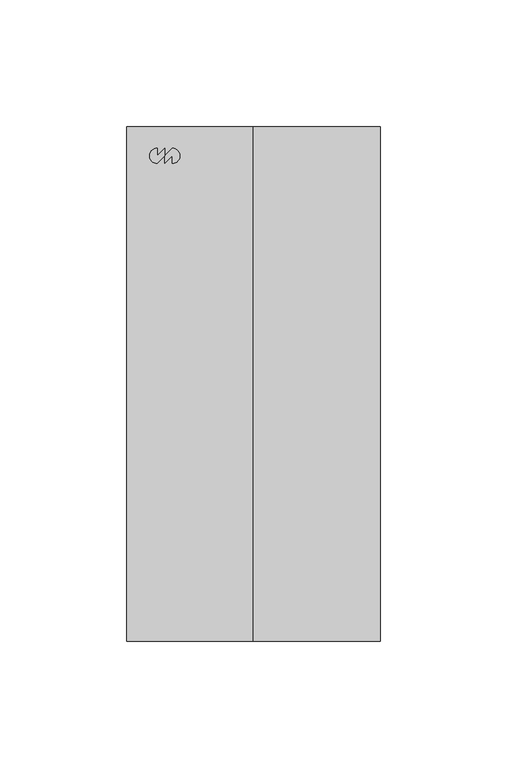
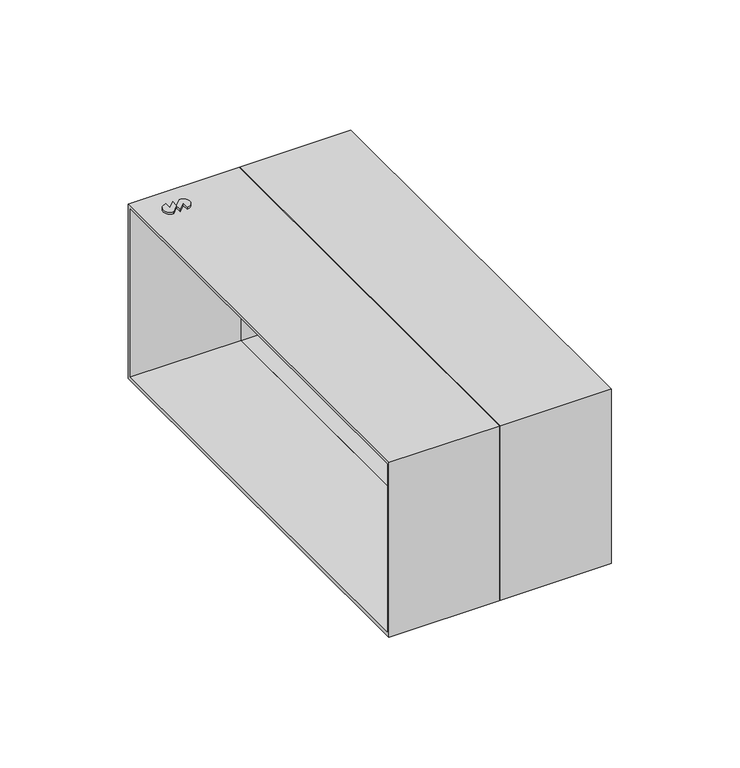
"""IFC4 building model written with IfcOpenShell, lengths in millimetres: duct fitting geometry, NLRS_57_DUF_UN_instortkanaal-manchet-voor-luchtkanaal_LT_velu : Manchet 100."""

import ifcopenshell
import ifcopenshell.guid

model = None  # the IFC model being written
_history = None  # IfcOwnerHistory: only IFC2X3 demands one
_inside = {}  # id of a spatial element -> (the spatial element, [elements in it])
_under = {}  # id of a project, library or spatial element -> (it, [spatial elements below it])
_declared = {}  # id of a project -> (the project, [libraries it declares])
_typed = {}  # id of a type object -> (the type object, [elements of that type])
_made_of = {}  # id of a material, layer set ... -> (it, [elements and type objects made of it])


def new_model(schema):
    """Start an empty IFC model of exactly this schema.

    Asked for "IFC4X3", IfcOpenShell would pick the latest addendum, in which some entities
    have other attributes; the version numbers below select the first issue.
    IFC2X3 requires an IfcOwnerHistory on every rooted entity: one is made here for all.
    """
    global model, _history
    if schema == "IFC4X3":
        model = ifcopenshell.file(schema_version=(4, 3, 0, 0))
    else:
        model = ifcopenshell.file(schema=schema)
    _inside.clear()
    _under.clear()
    _declared.clear()
    _typed.clear()
    _made_of.clear()
    _history = None
    if model.schema == "IFC2X3":
        org = make("IfcOrganization", Name="unknown")
        user = make(
            "IfcPersonAndOrganization",
            ThePerson=make("IfcPerson", FamilyName="unknown"),
            TheOrganization=org,
        )
        app = make(
            "IfcApplication",
            ApplicationDeveloper=org,
            Version="unknown",
            ApplicationFullName="unknown",
            ApplicationIdentifier="unknown",
        )
        _history = make(
            "IfcOwnerHistory",
            OwningUser=user,
            OwningApplication=app,
            ChangeAction="ADDED",
            CreationDate=0,
        )
    return model


def make(cls, **values):
    """One entity of the class cls with the attributes given. An attribute that is None is left unset."""
    return model.create_entity(
        cls, **{name: value for name, value in values.items() if value is not None}
    )


def rooted(cls, **values):
    """An entity with a GlobalId (a new one), such as an element, a storey or a relation."""
    return make(cls, GlobalId=ifcopenshell.guid.new(), OwnerHistory=_history, **values)


def si_unit(unit_type, name, prefix=None):
    """IfcSIUnit, for example si_unit("LENGTHUNIT", "METRE", prefix="MILLI")."""
    return make("IfcSIUnit", UnitType=unit_type, Prefix=prefix, Name=name)


def assignment(units):
    """IfcUnitAssignment: the units of a project."""
    return None if units is None else make("IfcUnitAssignment", Units=units)


def point(xyz):
    """IfcCartesianPoint."""
    return None if xyz is None else make("IfcCartesianPoint", Coordinates=xyz)


def direction(xyz):
    """IfcDirection."""
    return None if xyz is None else make("IfcDirection", DirectionRatios=xyz)


def frame(location, z_axis=None, x_axis=None):
    """IfcAxis2Placement3D, a coordinate frame: its origin and axes. An axis left out is left unset."""
    return make(
        "IfcAxis2Placement3D",
        Location=point(location),
        Axis=direction(z_axis),
        RefDirection=direction(x_axis),
    )


def frame_2d(location, x_axis=None):
    """IfcAxis2Placement2D, a coordinate frame in the plane: its origin and x axis."""
    return make(
        "IfcAxis2Placement2D", Location=point(location), RefDirection=direction(x_axis)
    )


def origin():
    """The frame at (0, 0, 0) with its axes left unset."""
    return frame((0.0, 0.0, 0.0))


def place(relative_to, where):
    """IfcLocalPlacement: puts the frame where relative to a parent placement (None: the world)."""
    return make(
        "IfcLocalPlacement", PlacementRelTo=relative_to, RelativePlacement=where
    )


def context(
    kind, dimensions, precision=None, world=None, true_north=None, identifier=None
):
    """IfcGeometricRepresentationContext, for example the 3D "Model" context."""
    return make(
        "IfcGeometricRepresentationContext",
        ContextIdentifier=identifier,
        ContextType=kind,
        CoordinateSpaceDimension=dimensions,
        Precision=precision,
        WorldCoordinateSystem=world,
        TrueNorth=true_north,
    )


def project(units=None, contexts=None):
    """IfcProject with its units and contexts."""
    return rooted(
        "IfcProject",
        Name="project",
        RepresentationContexts=contexts,
        UnitsInContext=assignment(units),
    )


def spatial(cls, under=None, at=None, **own):
    """A site, building, storey or space (cls), placed at a placement, below another one or the project."""
    s = rooted(cls, ObjectPlacement=at, **own)
    if under is not None:
        _under.setdefault(under.id(), (under, []))[1].append(s)
    return s


def polyline(points):
    """IfcPolyline through the points."""
    return make("IfcPolyline", Points=[point(p) for p in points])


def circle_curve(where, radius):
    """IfcCircle in the frame where."""
    return make("IfcCircle", Position=where, Radius=radius)


def trimmed(basis, trim1, trim2, sense, master):
    """IfcTrimmedCurve: the piece of a basis curve between two trims."""
    return make(
        "IfcTrimmedCurve",
        BasisCurve=basis,
        Trim1=trim1,
        Trim2=trim2,
        SenseAgreement=sense,
        MasterRepresentation=master,
    )


def segment(curve, same_sense, transition):
    """IfcCompositeCurveSegment."""
    return make(
        "IfcCompositeCurveSegment",
        Transition=transition,
        SameSense=same_sense,
        ParentCurve=curve,
    )


def composite_curve(segments, self_intersect=None):
    """IfcCompositeCurve: segments joined end to end."""
    return make("IfcCompositeCurve", Segments=segments, SelfIntersect=self_intersect)


def outline(outer, holes=None, kind="AREA"):
    """IfcArbitraryClosedProfileDef: a profile drawn as a closed curve; with holes, ...WithVoids."""
    if holes is None:
        return make("IfcArbitraryClosedProfileDef", ProfileType=kind, OuterCurve=outer)
    return make(
        "IfcArbitraryProfileDefWithVoids",
        ProfileType=kind,
        OuterCurve=outer,
        InnerCurves=holes,
    )


def extrude(swept, where, along, depth):
    """IfcExtrudedAreaSolid: the profile swept, set in the frame where, extruded along a direction by depth."""
    return make(
        "IfcExtrudedAreaSolid",
        SweptArea=swept,
        Position=where,
        ExtrudedDirection=direction(along),
        Depth=depth,
    )


def shape(context_of_items, identifier, shape_type, items):
    """IfcShapeRepresentation: the items that make up one representation, for example the "Body"."""
    return make(
        "IfcShapeRepresentation",
        ContextOfItems=context_of_items,
        RepresentationIdentifier=identifier,
        RepresentationType=shape_type,
        Items=items,
    )


def source(mapping_origin, context_of_items, identifier, shape_type, items):
    """IfcRepresentationMap: a shape defined once, which mapped items show again and again."""
    return make(
        "IfcRepresentationMap",
        MappingOrigin=mapping_origin,
        MappedRepresentation=shape(context_of_items, identifier, shape_type, items),
    )


def transform(
    local_origin,
    x_axis=None,
    y_axis=None,
    z_axis=None,
    scale=None,
    scale2=None,
    scale3=None,
    uniform=True,
):
    """IfcCartesianTransformationOperator3D, or its non-uniform kind. x_axis, y_axis, z_axis: its Axis1, 2, 3."""
    if uniform:
        return make(
            "IfcCartesianTransformationOperator3D",
            Axis1=direction(x_axis),
            Axis2=direction(y_axis),
            LocalOrigin=point(local_origin),
            Scale=scale,
            Axis3=direction(z_axis),
        )
    return make(
        "IfcCartesianTransformationOperator3DnonUniform",
        Axis1=direction(x_axis),
        Axis2=direction(y_axis),
        LocalOrigin=point(local_origin),
        Scale=scale,
        Axis3=direction(z_axis),
        Scale2=scale2,
        Scale3=scale3,
    )


def mapped(mapping_source, mapping_target):
    """IfcMappedItem: shows the shape of a source again, moved by a transform."""
    return make(
        "IfcMappedItem", MappingSource=mapping_source, MappingTarget=mapping_target
    )


def made_of(thing, what):
    """Note that an element or type object is made of a material, layer set ...; save() writes the relation."""
    if what is not None:
        _made_of.setdefault(what.id(), (what, []))[1].append(thing)
    return thing


def element(
    cls,
    number,
    at=None,
    inside=None,
    cuts=None,
    type_object=None,
    material=None,
    context=None,
    identifier="Body",
    shape_type=None,
    held_by="IfcProductDefinitionShape",
    body=None,
    shapes=None,
    **own,
):
    """One element of the class cls, such as IfcWall. Its Tag is "e" and its number.

    at: its placement. inside: the storey or other place that contains it. cuts: it is an
    opening in that element (IfcRelVoidsElement). A single representation is given by context,
    identifier, shape_type and body (its items); several are given by shapes. held_by: the class
    of the entity that holds the representations. save() writes the other relations.
    """
    e = rooted(cls, Tag="e%d" % number, ObjectPlacement=at, **own)
    if body is not None:
        shapes = [shape(context, identifier, shape_type, body)]
    if shapes is not None:
        e.Representation = make(held_by, Representations=shapes)
    if inside is not None:
        _inside.setdefault(inside.id(), (inside, []))[1].append(e)
    if cuts is not None:
        rooted(
            "IfcRelVoidsElement", RelatingBuildingElement=cuts, RelatedOpeningElement=e
        )
    if type_object is not None:
        _typed.setdefault(type_object.id(), (type_object, []))[1].append(e)
    return made_of(e, material)


def aggregate(whole, parts):
    """IfcRelAggregates: a whole, such as a stair, and the parts it consists of."""
    return rooted("IfcRelAggregates", RelatingObject=whole, RelatedObjects=parts)


def save(model, path):
    """Write the relations noted so far, then the file.

    IfcRelAggregates (storeys below a building ...), IfcRelContainedInSpatialStructure (elements
    in a storey), IfcRelDefinesByType, IfcRelAssociatesMaterial and IfcRelDeclares: one each for
    every whole, place, type object, material and project.
    """
    for whole, parts in _under.values():
        aggregate(whole, parts)
    for where, things in _inside.values():
        rooted(
            "IfcRelContainedInSpatialStructure",
            RelatedElements=things,
            RelatingStructure=where,
        )
    for kind, things in _typed.values():
        rooted("IfcRelDefinesByType", RelatedObjects=things, RelatingType=kind)
    for what, things in _made_of.values():
        rooted("IfcRelAssociatesMaterial", RelatedObjects=things, RelatingMaterial=what)
    for by, libraries in _declared.values():
        rooted("IfcRelDeclares", RelatingContext=by, RelatedDefinitions=libraries)
    model.write(path)


def duct_fitting_53590efe(model_context):
    return source(origin(), model_context, "Body", "SweptSolid", [
        extrude(outline(composite_curve([segment(polyline([(-32.0, 87.0), (-32.0, 90.0), (-35.0, 87.0), (-35.0, 90.0), (-32.0, 93.0)]), True, "CONTINUOUS"), segment(trimmed(circle_curve(frame_2d((-32.0, 90.0)), 3.0), [point((-32.0, 93.0))], [point((-32.0, 87.0))], False, "CARTESIAN"), True, "CONTINUOUS")], self_intersect=False)), frame((0.0, 0.0, -42.5), z_axis=(0.0, 0.0, 1.0), x_axis=(1.0, 0.0, 0.0)), (0.0, 0.0, 1.0), 1.0),
        extrude(outline(composite_curve([segment(polyline([(-38.0, 93.0), (-38.0, 90.0), (-35.0, 93.0), (-35.0, 90.0), (-38.0, 87.0)]), True, "CONTINUOUS"), segment(trimmed(circle_curve(frame_2d((-38.0, 90.0)), 3.0), [point((-38.0, 87.0))], [point((-38.0, 93.0))], False, "CARTESIAN"), True, "CONTINUOUS")], self_intersect=False)), frame((0.0, 0.0, -42.5), z_axis=(0.0, 0.0, 1.0), x_axis=(1.0, 0.0, 0.0)), (0.0, 0.0, 1.0), 1.0),
        extrude(outline(composite_curve([segment(polyline([(-38.0, 93.0), (-38.0, 90.0), (-35.0, 93.0), (-35.0, 90.0), (-38.0, 87.0)]), True, "CONTINUOUS"), segment(trimmed(circle_curve(frame_2d((-38.0, 90.0)), 3.0), [point((-38.0, 87.0))], [point((-38.0, 93.0))], False, "CARTESIAN"), True, "CONTINUOUS")], self_intersect=False)), frame((0.0, 0.0, 41.5), z_axis=(0.0, 0.0, 1.0), x_axis=(1.0, 0.0, 0.0)), (0.0, 0.0, 1.0), 1.0),
        extrude(outline(composite_curve([segment(polyline([(-32.0, 87.0), (-32.0, 90.0), (-35.0, 87.0), (-35.0, 90.0), (-32.0, 93.0)]), True, "CONTINUOUS"), segment(trimmed(circle_curve(frame_2d((-32.0, 90.0)), 3.0), [point((-32.0, 93.0))], [point((-32.0, 87.0))], False, "CARTESIAN"), True, "CONTINUOUS")], self_intersect=False)), frame((0.0, 0.0, 41.5), z_axis=(0.0, 0.0, 1.0), x_axis=(1.0, 0.0, 0.0)), (0.0, 0.0, 1.0), 1.0),
        extrude(outline(polyline([(101.5, -41.5), (-101.5, -41.5), (-101.5, 41.5), (101.5, 41.5), (101.5, -41.5)]), holes=[polyline([(100.0, 40.0), (-100.0, 40.0), (-100.0, -40.0), (100.0, -40.0), (100.0, 40.0)])]), frame((0.0, 0.0, 0.0), z_axis=(1.0, 0.0, 0.0), x_axis=(0.0, 1.0, 0.0)), (0.0, 0.0, 1.0), 50.0),
        extrude(outline(polyline([(-101.5, 41.5), (101.5, 41.5), (101.5, -41.5), (-101.5, -41.5), (-101.5, 41.5)]), holes=[polyline([(-100.0, -40.0), (100.0, -40.0), (100.0, 40.0), (-100.0, 40.0), (-100.0, -40.0)])]), frame((-50.0, 0.0, 0.0), z_axis=(1.0, 0.0, 0.0), x_axis=(0.0, 1.0, 0.0)), (0.0, 0.0, 1.0), 50.0),
    ])


if __name__ == "__main__":
    model = new_model("IFC4")
    model_context = context("Model", 3, world=origin())
    ifc_project = project(units=[si_unit("LENGTHUNIT", "METRE", prefix="MILLI")], contexts=[model_context])
    site = spatial("IfcSite", under=ifc_project)
    building = spatial("IfcBuilding", under=site)
    placement = place(None, origin())
    duct_fitting_shape = duct_fitting_53590efe(model_context)
    element("IfcDuctFitting", 1, ObjectType="NLRS_57_DUF_UN_instortkanaal-manchet-voor-luchtkanaal_LT_velu : Manchet 100", at=placement, inside=building, context=model_context, shape_type="MappedRepresentation", body=[
        mapped(duct_fitting_shape, transform((0.0, 0.0, 0.0), x_axis=(1.0, 0.0, 0.0), y_axis=(0.0, 1.0, 0.0), z_axis=(0.0, 0.0, 1.0))),
    ])
    save(model, "model.ifc")
